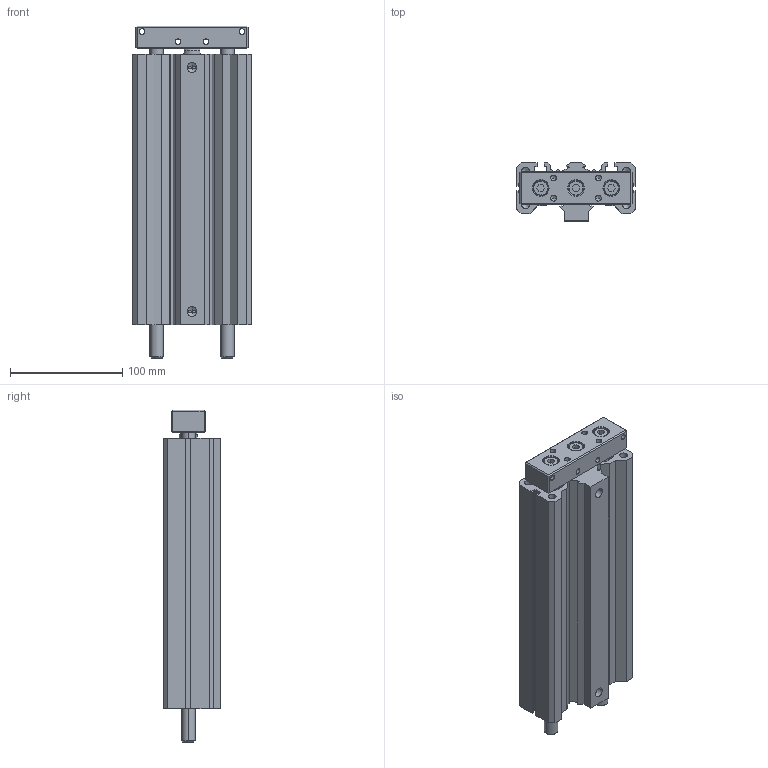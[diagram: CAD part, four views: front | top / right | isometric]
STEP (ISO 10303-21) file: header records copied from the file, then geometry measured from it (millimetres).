
FILE_DESCRIPTION (( 'STEP AP214' ), '1' );
FILE_NAME ('MCGA-63-32-200-NPT.STEP', '2013-10-22T20:41:11', ( 'user' ), ( '' ), 'SwSTEP 2.0', 'SolidWorks 2009', '' );
FILE_SCHEMA (( 'AUTOMOTIVE_DESIGN' ));
Length unit declared in the file: millimetre
Products named in the file (1): MCGA-63-32-200-NPT
Bounding box: 106 x 51.5 x 296 mm (x, y, z)
Volume: 883969.4 mm3; surface area: 196618.7 mm2
Topology: 1 solids, 4 shells, 282 faces, 704 edges, 434 vertices
Faces by surface type: plane 158, cylinder 74, cone 50
Entity records: 8323 total; most frequent: CARTESIAN_POINT 1597, DIRECTION 1400, ORIENTED_EDGE 1352, EDGE_CURVE 676, LINE 486, VECTOR 486, AXIS2_PLACEMENT_3D 457, VERTEX_POINT 434
